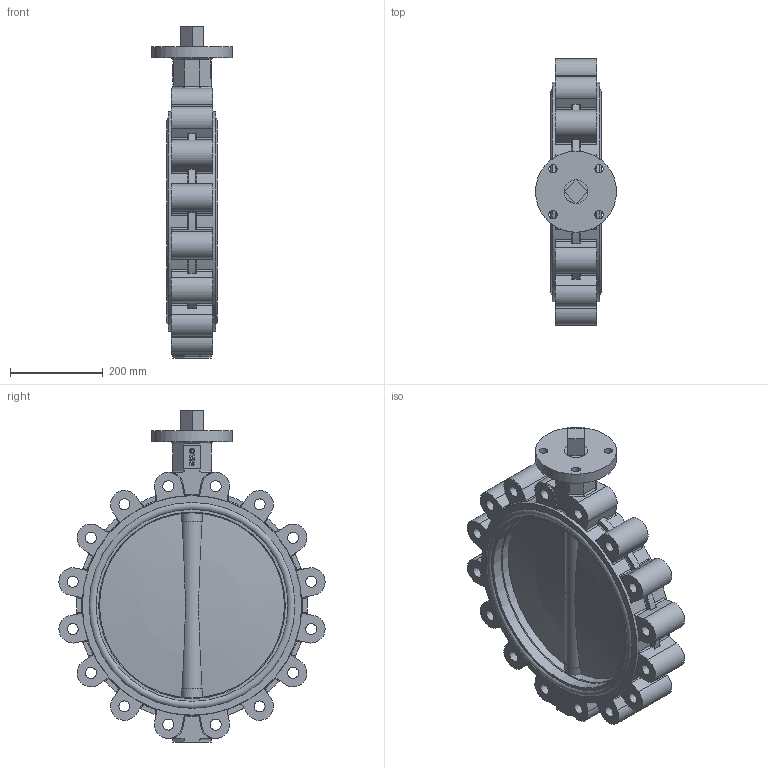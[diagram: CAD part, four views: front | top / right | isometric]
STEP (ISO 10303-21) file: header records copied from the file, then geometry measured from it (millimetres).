
FILE_DESCRIPTION(('STEP AP242'), '1');
FILE_NAME('Ïîâîðîòíûé çàòâîð ïîä ýëåêòðîïðèâîä', '', ('UNSPECIFIED'), ('UNSPECIFIED'), 'C3D Converter', 'C3D Toolkit', '');
FILE_SCHEMA(('AP242_MANAGED_MODEL_BASED_3D_ENGINEERING_MIM_LF { 1 0 10303 442 1 1 4 }'));
Length unit declared in the file: millimetre
Products named in the file (6): П
Assembly tree (6 placements, depth 2):
  (unnamed)
    (unnamed)
    П  x2
    (unnamed)
    (unnamed)
    (unnamed)
Bounding box: 175 x 574.9 x 717 mm (x, y, z)
Volume: 13698065.6 mm3; surface area: 1622567.6 mm2
Topology: 6 solids, 6 shells, 755 faces, 1968 edges, 1258 vertices
Faces by surface type: plane 280, cylinder 229, extrusion 135, torus 103, cone 4, sphere 4
Full cylindrical faces by diameter (mm): 11.421 x1, 18 x4, 23.752 x16, 36 x5, 39.6 x1, 48.45 x4, 50.912 x5, 175 x1, 400 x1, 403 x2, 415 x2, 429.75 x4, 444.5 x4, 474.133 x2
Entity records: 29184 total; most frequent: CARTESIAN_POINT 8850, ORIENTED_EDGE 3804, DIRECTION 3513, EDGE_CURVE 1902, VERTEX_POINT 1253, AXIS2_PLACEMENT_3D 1235, VECTOR 1043, LINE 908
